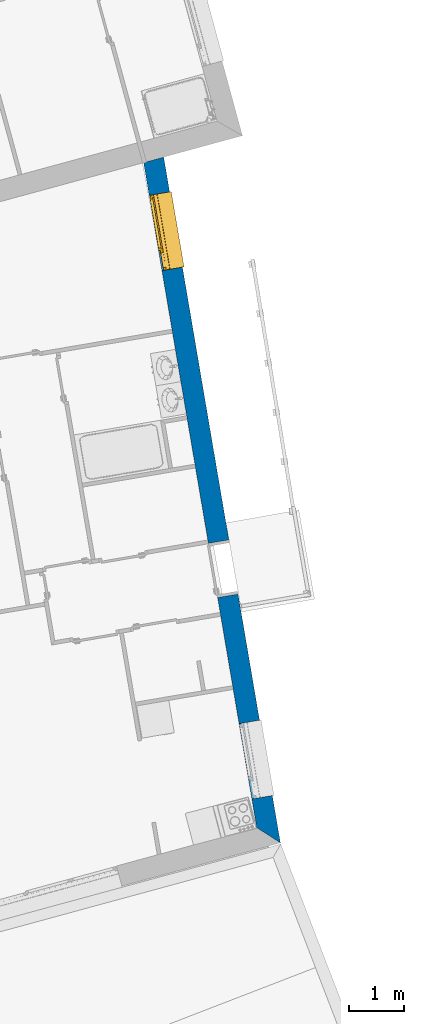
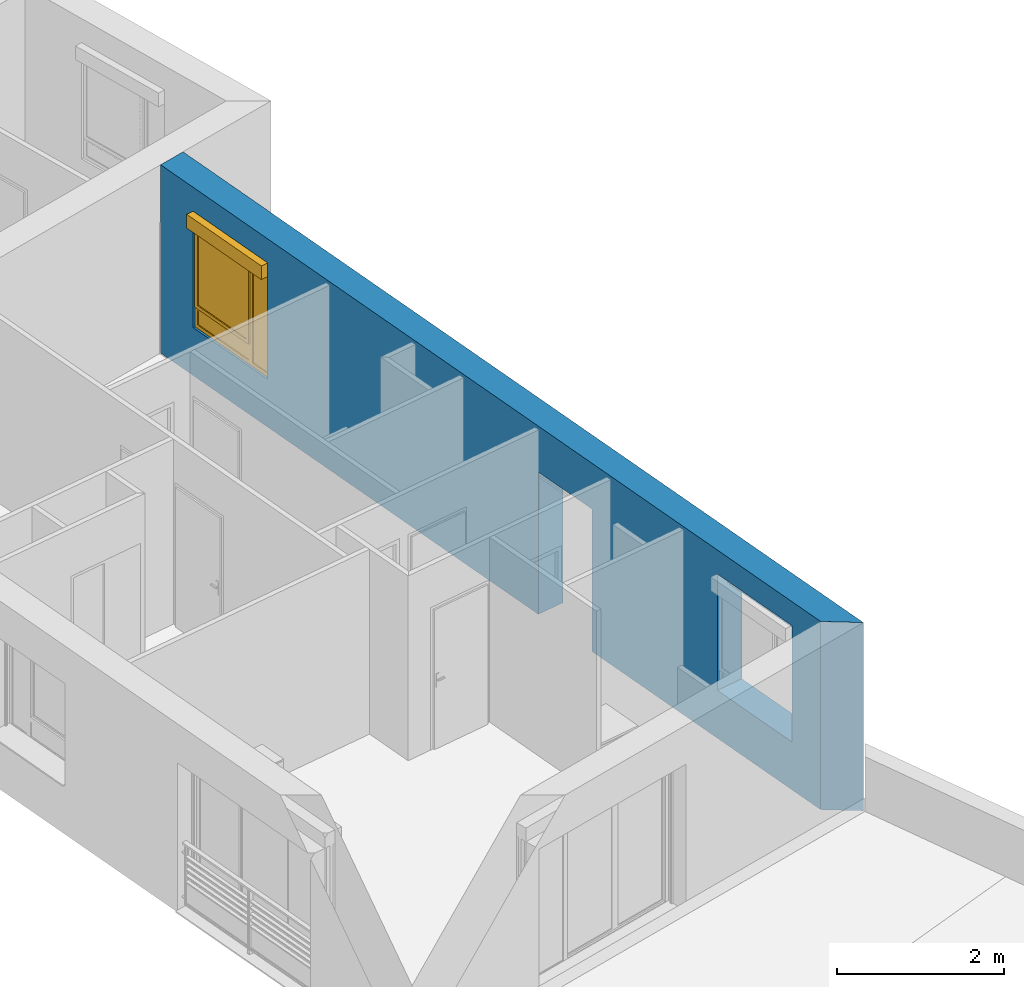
# One storey, part 76 of 121: 1 wall, 1 window, 3 openings.
"""IFC2X3 building model written with IfcOpenShell, lengths in metres."""

from ifc_helpers import new_model, entity, si_unit, converted_unit, derived_unit, money_unit, direction, frame, origin_with_axes, origin_2d_with_axis, place, context, subcontext, project, spatial, polyline, rectangle, outline, extrude, open_shell, faceted_brep, surface_model, source, transform, mapped, material, layer, layer_set, layer_usage, type_object, element, fill, save


model = new_model("IFC2X3")

# Units and contexts
model_context = context("Model", 3, precision=1e-05, world=origin_with_axes(), true_north=direction((0.0, 1.0)))
body_context = subcontext(model_context, "Body", "Model", "MODEL_VIEW")
ifc_project = project(units=[si_unit("LENGTHUNIT", "METRE"), si_unit("AREAUNIT", "SQUARE_METRE"), si_unit("VOLUMEUNIT", "CUBIC_METRE"), converted_unit("PLANEANGLEUNIT", "DEGREE", entity("IfcPlaneAngleMeasure", 0.0174532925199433), si_unit("PLANEANGLEUNIT", "RADIAN"), dimensions=[0, 0, 0, 0, 0, 0, 0]), money_unit("CHF"), converted_unit("TIMEUNIT", "Year", entity("IfcTimeMeasure", 31557600.0), si_unit("TIMEUNIT", "SECOND"), dimensions=[0, 0, 1, 0, 0, 0, 0]), si_unit("MASSUNIT", "GRAM", prefix="KILO"), si_unit("THERMODYNAMICTEMPERATUREUNIT", "DEGREE_CELSIUS"), si_unit("LUMINOUSINTENSITYUNIT", "LUMEN"), si_unit("ENERGYUNIT", "JOULE", prefix="MEGA"), derived_unit("THERMALCONDUCTANCEUNIT", [(si_unit("POWERUNIT", "WATT"), 1), (si_unit("LENGTHUNIT", "METRE"), -1), (si_unit("THERMODYNAMICTEMPERATUREUNIT", "KELVIN"), -1)]), derived_unit("SPECIFICHEATCAPACITYUNIT", [(si_unit("ENERGYUNIT", "JOULE"), 1), (si_unit("MASSUNIT", "GRAM", prefix="KILO"), -1), (si_unit("THERMODYNAMICTEMPERATUREUNIT", "KELVIN"), -1)]), derived_unit("MASSDENSITYUNIT", [(si_unit("MASSUNIT", "GRAM", prefix="KILO"), 1), (si_unit("VOLUMEUNIT", "CUBIC_METRE"), -1)])], contexts=[model_context])

# Site, building, storey
site_placement = place(None, origin_with_axes())
site = spatial("IfcSite", under=ifc_project, at=site_placement, Name="Site", CompositionType="ELEMENT")
building_placement = place(site_placement, origin_with_axes())
building = spatial("IfcBuilding", under=site, at=building_placement, Name="Bâtiment", CompositionType="ELEMENT")
storey_placement = place(building_placement, frame((0.0, 0.0, 2.75), z_axis=(0.0, 0.0, 1.0), x_axis=(1.0, 0.0, 0.0)))
storey = spatial("IfcBuildingStorey", under=building, at=storey_placement, Name="Etage 1", CompositionType="ELEMENT", Elevation=2.75)

# Wall, openings, window
ifc_material_1 = material(Name="Parpaing 312445824")
ifc_layer_1 = layer(ifc_material_1, 0.22, ventilated="UNKNOWN")
ifc_material_2 = material(Name="Isolant styromousse 301821074")
ifc_layer_2 = layer(ifc_material_2, 0.16, ventilated="UNKNOWN")
ifc_layer_set = layer_set([ifc_layer_1, ifc_layer_2], Name="isol int 22+16 0836643197")
ifc_layer_usage = layer_usage(ifc_layer_set, "AXIS2", "NEGATIVE", 0.0)
wall_type = type_object("IfcWallType", Name="isol int 22+16 0836643197 380", PredefinedType="NOTDEFINED")
wall_placement = place(storey_placement, frame((9587.267838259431, -1021.018009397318, 57.7), z_axis=(0.0, 0.0, 1.0), x_axis=(0.1677527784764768, -0.9858290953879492, 0.0)))
wall = element("IfcWallStandardCase", 1, at=wall_placement, inside=storey, type_object=wall_type, material=ifc_layer_usage, Name="Mur-113", context=body_context, shape_type="SweptSolid", body=[
    extrude(outline(polyline([(0.03709306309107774, -0.3799999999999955), (12.41463836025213, -0.3799999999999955), (12.75935139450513, 0.0), (9.105178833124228e-10, 0.0), (0.03709306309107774, -0.3799999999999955)])), origin_with_axes(), (0.0, 0.0, 1.0), 2.75),
])
opening_1_placement = place(wall_placement, frame((1.346555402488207, 0.0, 0.7000000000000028), z_axis=(0.0, 0.0, 1.0), x_axis=(1.0, 0.0, 0.0)))
opening_1 = element("IfcOpeningElement", 2, at=opening_1_placement, cuts=wall, Name="Fen-045", context=body_context, shape_type="Brep", body=[
    faceted_brep([(-0.700000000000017, -0.2200000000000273, 1.5), (0.700000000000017, -0.2199999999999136, 1.5), (0.700000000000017, 2.111085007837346, 1.5), (-0.700000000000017, 2.111085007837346, 1.5), (-0.700000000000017, -0.2200000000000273, 1.700000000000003), (0.700000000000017, -0.2199999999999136, 1.700000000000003), (0.700000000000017, -0.2999999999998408, 1.5), (0.700000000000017, -0.2999999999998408, 0.0), (0.700000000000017, 2.111085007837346, 0.0), (-0.700000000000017, 2.111085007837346, 0.0), (-0.6999999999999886, -0.2999999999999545, 1.5), (-0.6999999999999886, -0.2999999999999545, 0.0), (-0.6999999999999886, -0.4799999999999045, 1.5), (-0.6999999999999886, -0.4799999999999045, 1.700000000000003), (0.700000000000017, -0.4799999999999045, 1.700000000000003), (0.700000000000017, -0.4799999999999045, 1.5), (0.700000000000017, -2.491085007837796, 1.5), (0.700000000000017, -2.491085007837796, 0.0), (-0.6999999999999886, -2.491085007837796, 0.0), (-0.6999999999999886, -2.491085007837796, 1.5)], [[[0, 1, 2, 3]], [[1, 0, 4, 5]], [[1, 6, 7, 8, 2]], [[2, 8, 9, 3]], [[10, 0, 3, 9, 11]], [[0, 10, 12, 13, 4]], [[14, 5, 4, 13]], [[6, 1, 5, 14, 15]], [[6, 15, 16, 17, 7]], [[7, 11, 9, 8]], [[12, 10, 11, 18, 19]], [[12, 15, 14, 13]], [[15, 12, 19, 16]], [[19, 18, 17, 16]], [[11, 7, 17, 18]]]),
])
opening_2_placement = place(wall_placement, frame((7.626217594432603, 0.0, 0.0), z_axis=(0.0, 0.0, 1.0), x_axis=(1.0, 0.0, 0.0)))
element("IfcOpeningElement", 3, at=opening_2_placement, cuts=wall, Name="Por-294", context=body_context, shape_type="SweptSolid", body=[
    extrude(rectangle(XDim=1.01000001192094, YDim=2.079999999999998, at=origin_2d_with_axis()), frame((-5.960401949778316e-09, 0.3799999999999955, 1.039999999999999), z_axis=(0.0, -1.0, 0.0), x_axis=(-1.0, 0.0, 0.0)), (0.0, 0.0, 1.0), 0.76),
])
opening_3_placement = place(wall_placement, frame((11.17804092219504, 0.0, 0.7000000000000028), z_axis=(0.0, 0.0, 1.0), x_axis=(1.0, 0.0, 0.0)))
element("IfcOpeningElement", 4, at=opening_3_placement, cuts=wall, Name="Fen-045", context=body_context, shape_type="Brep", body=[
    faceted_brep([(-0.6999999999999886, -0.2200000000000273, 1.5), (0.6999999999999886, -0.2200000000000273, 1.5), (0.6999999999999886, 2.111085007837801, 1.5), (-0.6999999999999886, 2.111085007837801, 1.5), (-0.6999999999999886, -0.2200000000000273, 1.700000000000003), (0.6999999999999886, -0.2200000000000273, 1.700000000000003), (0.6999999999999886, -0.2999999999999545, 1.5), (0.6999999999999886, -0.2999999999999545, 0.0), (0.6999999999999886, 2.111085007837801, 0.0), (-0.6999999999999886, 2.111085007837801, 0.0), (-0.6999999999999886, -0.2999999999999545, 1.5), (-0.6999999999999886, -0.2999999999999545, 0.0), (-0.6999999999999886, -0.4799999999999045, 1.5), (-0.6999999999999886, -0.4799999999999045, 1.700000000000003), (0.6999999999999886, -0.4800000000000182, 1.700000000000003), (0.6999999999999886, -0.4800000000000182, 1.5), (0.700000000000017, -2.491085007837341, 1.5), (0.700000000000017, -2.491085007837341, 0.0), (-0.700000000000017, -2.491085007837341, 0.0), (-0.700000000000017, -2.491085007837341, 1.5)], [[[0, 1, 2, 3]], [[1, 0, 4, 5]], [[1, 6, 7, 8, 2]], [[2, 8, 9, 3]], [[10, 0, 3, 9, 11]], [[0, 10, 12, 13, 4]], [[14, 5, 4, 13]], [[6, 1, 5, 14, 15]], [[6, 15, 16, 17, 7]], [[7, 11, 9, 8]], [[12, 10, 11, 18, 19]], [[12, 15, 14, 13]], [[15, 12, 19, 16]], [[19, 18, 17, 16]], [[11, 7, 17, 18]]]),
])
window_style = type_object("IfcWindowStyle", Name="Fenêtre variable 27", ConstructionType="NOTDEFINED", OperationType="TRIPLE_PANEL_LEFT", ParameterTakesPrecedence=False, Sizeable=False)
shared_shape = source(origin_with_axes(), body_context, "Body", "SurfaceModel", [
    surface_model("IfcShellBasedSurfaceModel", [(0.7, -0.05100000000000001, 0.05), (-0.7, -0.05100000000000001, 0.05000000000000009), (-0.7, -0.05100000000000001, 0.04000000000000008), (0.7, -0.05100000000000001, 0.04), (-0.7, -0.3799999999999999, 0.02900000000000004), (0.7, -0.3799999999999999, 0.02899999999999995), (-0.7, -0.3799999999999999, 0.00900000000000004), (0.7, -0.3799999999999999, 0.008999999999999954), (-0.7, -0.3699999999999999, 0.01900000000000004), (0.7, -0.3699999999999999, 0.01899999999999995)], [open_shell([[[0, 1, 2, 3]], [[3, 2, 4, 5]], [[5, 4, 6, 7]], [[7, 6, 8, 9]]])]),
    faceted_brep([(0.7, -0.13, 1.7), (0.7, 0.13, 1.7), (0.697, 0.13, 1.7), (0.697, -0.13, 1.7), (0.7, -0.13, 1.5), (0.7, 0.13, 1.5), (0.697, 0.13, 1.5), (0.697, -0.13, 1.5)], [[[0, 1, 2, 3]], [[0, 4, 5, 1]], [[1, 5, 6, 2]], [[3, 2, 6, 7]], [[4, 0, 3, 7]], [[5, 4, 7, 6]]]),
    faceted_brep([(-0.6970000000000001, -0.1299999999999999, 1.7), (-0.6970000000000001, 0.1300000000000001, 1.7), (-0.7000000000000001, 0.1300000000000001, 1.7), (-0.7000000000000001, -0.1299999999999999, 1.7), (-0.6970000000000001, -0.1299999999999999, 1.5), (-0.6970000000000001, 0.1300000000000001, 1.5), (-0.7000000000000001, 0.1300000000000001, 1.5), (-0.7000000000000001, -0.1299999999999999, 1.5)], [[[0, 1, 2, 3]], [[0, 4, 5, 1]], [[1, 5, 6, 2]], [[3, 2, 6, 7]], [[4, 0, 3, 7]], [[5, 4, 7, 6]]]),
    faceted_brep([(0.697, -0.13, 1.5), (0.697, -0.13, 1.7), (-0.697, -0.1299999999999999, 1.7), (-0.697, -0.1299999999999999, 1.5), (0.697, -0.127, 1.5), (0.697, -0.127, 1.697), (0.697, 0.127, 1.697), (0.697, 0.127, 1.503), (0.697, -0.108, 1.503), (0.697, -0.108, 1.5), (0.697, 0.13, 1.5), (0.697, 0.13, 1.7), (-0.697, 0.1300000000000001, 1.7), (-0.697, 0.1300000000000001, 1.5), (-0.697, -0.1079999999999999, 1.5), (-0.697, -0.1079999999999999, 1.503), (-0.697, 0.1270000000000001, 1.503), (-0.697, 0.1270000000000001, 1.697), (-0.697, -0.1269999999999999, 1.697), (-0.697, -0.1269999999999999, 1.5)], [[[0, 1, 2, 3]], [[0, 4, 5, 6, 7, 8, 9, 10, 11, 1]], [[1, 11, 12, 2]], [[3, 2, 12, 13, 14, 15, 16, 17, 18, 19]], [[4, 0, 3, 19]], [[5, 4, 19, 18]], [[6, 5, 18, 17]], [[7, 6, 17, 16]], [[8, 7, 16, 15]], [[9, 8, 15, 14]], [[10, 9, 14, 13]], [[11, 10, 13, 12]]]),
    faceted_brep([(0.694, -0.08075423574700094, 1.585760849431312), (0.694, -0.07705479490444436, 1.571954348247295), (0.694, -0.07101408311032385, 1.559), (0.694, -0.06281564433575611, 1.547291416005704), (0.694, -0.05270858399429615, 1.537184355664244), (0.694, -0.04099999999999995, 1.528985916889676), (0.694, -0.02804565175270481, 1.522945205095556), (0.694, -0.01423915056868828, 1.519245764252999), (0.694, 0.0, 1.518), (0.694, 0.01423915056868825, 1.519245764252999), (0.694, 0.02804565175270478, 1.522945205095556), (0.694, 0.04099999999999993, 1.528985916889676), (0.694, 0.05270858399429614, 1.537184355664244), (0.694, 0.06281564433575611, 1.547291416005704), (0.694, 0.07101408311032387, 1.559), (0.694, 0.07705479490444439, 1.571954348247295), (0.694, 0.08075423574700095, 1.585760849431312), (0.694, 0.0819999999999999, 1.6), (0.694, 0.08075423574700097, 1.614239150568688), (0.694, 0.0770547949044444, 1.628045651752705), (0.694, 0.07101408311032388, 1.641), (0.694, 0.06281564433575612, 1.652708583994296), (0.694, 0.05270858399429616, 1.662815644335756), (0.694, 0.04099999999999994, 1.671014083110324), (0.694, 0.02804565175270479, 1.677054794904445), (0.694, 0.01423915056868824, 1.680754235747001), (0.694, 0.0, 1.682), (0.694, -0.01423915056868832, 1.680754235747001), (0.694, -0.02804565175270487, 1.677054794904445), (0.694, -0.04100000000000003, 1.671014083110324), (0.694, -0.05270858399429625, 1.662815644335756), (0.694, -0.06281564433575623, 1.652708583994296), (0.694, -0.07101408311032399, 1.641), (0.694, -0.07705479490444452, 1.628045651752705), (0.694, -0.0807542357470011, 1.614239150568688), (0.694, -0.08200000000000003, 1.6), (-0.694, -0.08075423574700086, 1.585760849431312), (-0.694, -0.07705479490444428, 1.571954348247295), (-0.694, -0.07101408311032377, 1.559), (-0.694, -0.06281564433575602, 1.547291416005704), (-0.694, -0.05270858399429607, 1.537184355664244), (-0.694, -0.04099999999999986, 1.528985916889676), (-0.694, -0.02804565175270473, 1.522945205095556), (-0.694, -0.0142391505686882, 1.519245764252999), (-0.694, 0.0, 1.518), (-0.694, 0.01423915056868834, 1.519245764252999), (-0.694, 0.02804565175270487, 1.522945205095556), (-0.694, 0.04100000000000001, 1.528985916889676), (-0.694, 0.05270858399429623, 1.537184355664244), (-0.694, 0.06281564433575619, 1.547291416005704), (-0.694, 0.07101408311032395, 1.559), (-0.694, 0.07705479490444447, 1.571954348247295), (-0.694, 0.08075423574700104, 1.585760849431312), (-0.694, 0.08199999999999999, 1.6), (-0.694, 0.08075423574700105, 1.614239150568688), (-0.694, 0.07705479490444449, 1.628045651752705), (-0.694, 0.07101408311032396, 1.641), (-0.694, 0.0628156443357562, 1.652708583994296), (-0.694, 0.05270858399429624, 1.662815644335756), (-0.694, 0.04100000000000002, 1.671014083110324), (-0.694, 0.02804565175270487, 1.677054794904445), (-0.694, 0.01423915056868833, 1.680754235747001), (-0.694, 0.0, 1.682), (-0.694, -0.01423915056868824, 1.680754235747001), (-0.694, -0.02804565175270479, 1.677054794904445), (-0.694, -0.04099999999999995, 1.671014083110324), (-0.694, -0.05270858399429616, 1.662815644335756), (-0.694, -0.06281564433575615, 1.652708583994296), (-0.694, -0.07101408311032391, 1.641), (-0.694, -0.07705479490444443, 1.628045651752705), (-0.694, -0.08075423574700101, 1.614239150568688), (-0.694, -0.08199999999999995, 1.6)], [[[0, 1, 2, 3, 4, 5, 6, 7, 8, 9, 10, 11, 12, 13, 14, 15, 16, 17, 18, 19, 20, 21, 22, 23, 24, 25, 26, 27, 28, 29, 30, 31, 32, 33, 34, 35]], [[1, 0, 36, 37]], [[2, 1, 37, 38]], [[3, 2, 38, 39]], [[4, 3, 39, 40]], [[5, 4, 40, 41]], [[6, 5, 41, 42]], [[7, 6, 42, 43]], [[8, 7, 43, 44]], [[9, 8, 44, 45]], [[10, 9, 45, 46]], [[11, 10, 46, 47]], [[12, 11, 47, 48]], [[13, 12, 48, 49]], [[14, 13, 49, 50]], [[15, 14, 50, 51]], [[16, 15, 51, 52]], [[17, 16, 52, 53]], [[18, 17, 53, 54]], [[19, 18, 54, 55]], [[20, 19, 55, 56]], [[21, 20, 56, 57]], [[22, 21, 57, 58]], [[23, 22, 58, 59]], [[24, 23, 59, 60]], [[25, 24, 60, 61]], [[26, 25, 61, 62]], [[27, 26, 62, 63]], [[28, 27, 63, 64]], [[29, 28, 64, 65]], [[30, 29, 65, 66]], [[31, 30, 66, 67]], [[32, 31, 67, 68]], [[33, 32, 68, 69]], [[34, 33, 69, 70]], [[35, 34, 70, 71]], [[0, 35, 71, 36]], [[36, 71, 70, 69, 68, 67, 66, 65, 64, 63, 62, 61, 60, 59, 58, 57, 56, 55, 54, 53, 52, 51, 50, 49, 48, 47, 46, 45, 44, 43, 42, 41, 40, 39, 38, 37]]]),
    faceted_brep([(-0.7, -0.105, 0.03), (-0.7, -0.13, 0.03), (-0.7, -0.1299999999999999, 1.5), (-0.7, -0.1049999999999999, 1.5), (-0.6749999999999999, -0.105, 0.03), (-0.6749999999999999, -0.108, 0.03), (-0.697, -0.108, 0.03), (-0.697, -0.127, 0.03), (-0.6749999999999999, -0.127, 0.03), (-0.6749999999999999, -0.13, 0.03), (-0.6749999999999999, -0.1299999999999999, 1.5), (-0.6749999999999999, -0.1269999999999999, 1.5), (-0.697, -0.1269999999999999, 1.5), (-0.697, -0.1079999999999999, 1.5), (-0.6749999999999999, -0.1079999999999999, 1.5), (-0.6749999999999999, -0.1049999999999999, 1.5)], [[[0, 1, 2, 3]], [[0, 4, 5, 6, 7, 8, 9, 1]], [[1, 9, 10, 2]], [[3, 2, 10, 11, 12, 13, 14, 15]], [[4, 0, 3, 15]], [[5, 4, 15, 14]], [[6, 5, 14, 13]], [[7, 6, 13, 12]], [[8, 7, 12, 11]], [[9, 8, 11, 10]]]),
    faceted_brep([(0.7, -0.105, 0.03), (0.7, -0.1049999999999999, 1.5), (0.7, -0.1299999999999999, 1.5), (0.7, -0.13, 0.03), (0.6749999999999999, -0.105, 0.03), (0.6749999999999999, -0.1049999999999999, 1.5), (0.6749999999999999, -0.1079999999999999, 1.5), (0.697, -0.1079999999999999, 1.5), (0.697, -0.1269999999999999, 1.5), (0.6749999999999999, -0.1269999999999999, 1.5), (0.6749999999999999, -0.1299999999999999, 1.5), (0.6749999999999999, -0.13, 0.03), (0.6749999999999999, -0.127, 0.03), (0.697, -0.127, 0.03), (0.697, -0.108, 0.03), (0.6749999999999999, -0.108, 0.03)], [[[0, 1, 2, 3]], [[4, 5, 1, 0]], [[1, 5, 6, 7, 8, 9, 10, 2]], [[3, 2, 10, 11]], [[0, 3, 11, 12, 13, 14, 15, 4]], [[15, 6, 5, 4]], [[14, 7, 6, 15]], [[13, 8, 7, 14]], [[12, 9, 8, 13]], [[11, 10, 9, 12]]]),
    surface_model("IfcShellBasedSurfaceModel", [(0.697, -0.115, 1.6), (-0.697, -0.1149999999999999, 1.6), (-0.697, -0.12, 1.6), (0.697, -0.12, 1.6), (0.697, -0.115, 1.6), (0.697, -0.12, 1.6), (-0.697, -0.1199999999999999, 1.6), (-0.697, -0.1149999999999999, 1.6)], [open_shell([[[0, 1, 2, 3]], [[4, 5, 6, 7]]])]),
    faceted_brep([(0.697, -0.115, 1.6), (0.697, -0.1166666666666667, 1.583333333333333), (-0.697, -0.1166666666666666, 1.583333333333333), (-0.697, -0.1149999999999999, 1.6), (0.697, -0.12, 1.6), (0.697, -0.1216666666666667, 1.583333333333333), (0.697, -0.1216666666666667, 1.566666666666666), (0.697, -0.12, 1.55), (0.697, -0.115, 1.55), (0.697, -0.1166666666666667, 1.566666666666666), (-0.697, -0.1166666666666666, 1.566666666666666), (-0.697, -0.1149999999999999, 1.55), (-0.697, -0.1199999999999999, 1.55), (-0.697, -0.1216666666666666, 1.566666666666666), (-0.697, -0.1216666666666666, 1.583333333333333), (-0.697, -0.1199999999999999, 1.6)], [[[0, 1, 2, 3]], [[0, 4, 5, 6, 7, 8, 9, 1]], [[1, 9, 10, 2]], [[3, 2, 10, 11, 12, 13, 14, 15]], [[4, 0, 3, 15]], [[5, 4, 15, 14]], [[6, 5, 14, 13]], [[7, 6, 13, 12]], [[8, 7, 12, 11]], [[9, 8, 11, 10]]]),
    faceted_brep([(0.697, -0.115, 1.55), (0.697, -0.1166666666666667, 1.533333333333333), (-0.697, -0.1166666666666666, 1.533333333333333), (-0.697, -0.1149999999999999, 1.55), (0.697, -0.12, 1.55), (0.697, -0.1216666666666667, 1.533333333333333), (0.697, -0.1216666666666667, 1.516666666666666), (0.697, -0.12, 1.5), (0.697, -0.115, 1.5), (0.697, -0.1166666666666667, 1.516666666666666), (-0.697, -0.1166666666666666, 1.516666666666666), (-0.697, -0.1149999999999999, 1.5), (-0.697, -0.1199999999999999, 1.5), (-0.697, -0.1216666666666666, 1.516666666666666), (-0.697, -0.1216666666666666, 1.533333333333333), (-0.697, -0.1199999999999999, 1.55)], [[[0, 1, 2, 3]], [[0, 4, 5, 6, 7, 8, 9, 1]], [[1, 9, 10, 2]], [[3, 2, 10, 11, 12, 13, 14, 15]], [[4, 0, 3, 15]], [[5, 4, 15, 14]], [[6, 5, 14, 13]], [[7, 6, 13, 12]], [[8, 7, 12, 11]], [[9, 8, 11, 10]]]),
    faceted_brep([(0.6749999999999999, 0.0, 1.45), (0.6749999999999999, -0.02500000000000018, 1.45), (0.6499999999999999, -0.02500000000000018, 1.45), (0.6499999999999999, -0.05000000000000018, 1.45), (0.7, -0.05000000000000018, 1.45), (0.7, 0.0, 1.45), (0.6749999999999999, 0.0, 0.3099999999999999), (0.6749999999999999, -0.02500000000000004, 0.3099999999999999), (0.6499999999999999, -0.02500000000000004, 0.335), (0.6499999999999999, -0.02500000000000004, 0.3099999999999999), (0.6499999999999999, -0.05000000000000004, 0.335), (0.6499999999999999, -0.05000000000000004, 0.265), (0.6499999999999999, -0.05000000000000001, 0.05000000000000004), (0.7, -0.05000000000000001, 0.05000000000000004), (0.7, 0.0, 0.05000000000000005), (0.6499999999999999, 0.0, 0.05000000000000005), (0.6499999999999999, 0.0, 0.265), (0.6499999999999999, 0.0, 0.3099999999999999)], [[[0, 1, 2, 3, 4, 5]], [[1, 0, 6, 7]], [[8, 2, 1, 7, 9]], [[2, 8, 10, 3]], [[10, 11, 12, 13, 4, 3]], [[5, 4, 13, 14]], [[6, 0, 5, 14, 15, 16, 17]], [[6, 17, 9, 7]], [[9, 17, 16, 11, 10, 8]], [[15, 12, 11, 16]], [[14, 13, 12, 15]]]),
    faceted_brep([(-0.3068894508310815, -0.02500000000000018, 1.45), (-0.3318894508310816, -0.02500000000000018, 1.45), (-0.3318894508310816, 0.0, 1.45), (-0.3768894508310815, 0.0, 1.45), (-0.3768894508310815, -0.05000000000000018, 1.45), (-0.3068894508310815, -0.05000000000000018, 1.45), (-0.3068894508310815, -0.02500000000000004, 0.335), (-0.3068894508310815, -0.02500000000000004, 0.3099999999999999), (-0.3318894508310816, -0.02500000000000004, 0.3099999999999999), (-0.3318894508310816, 0.0, 0.3099999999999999), (-0.3068894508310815, 0.0, 0.3099999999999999), (-0.3068894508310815, 0.0, 0.265), (-0.3068894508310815, 0.0, 0.05000000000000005), (-0.3768894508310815, 0.0, 0.05000000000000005), (-0.3768894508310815, -0.05000000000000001, 0.05000000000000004), (-0.3068894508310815, -0.05000000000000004, 0.265), (-0.3068894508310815, -0.05000000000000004, 0.335), (-0.3068894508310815, -0.05000000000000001, 0.05000000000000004)], [[[0, 1, 2, 3, 4, 5]], [[1, 0, 6, 7, 8]], [[9, 2, 1, 8]], [[9, 10, 11, 12, 13, 3, 2]], [[13, 14, 4, 3]], [[15, 16, 5, 4, 14, 17]], [[6, 0, 5, 16]], [[7, 6, 16, 15, 11, 10]], [[10, 9, 8, 7]], [[11, 15, 17, 12]], [[12, 17, 14, 13]]]),
    faceted_brep([(0.6499999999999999, -0.02500000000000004, 0.335), (-0.3068894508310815, -0.02500000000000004, 0.335), (-0.3068894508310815, -0.05000000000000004, 0.335), (0.6499999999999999, -0.05000000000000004, 0.335), (-0.3068894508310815, -0.02500000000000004, 0.3099999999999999), (0.6499999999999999, -0.02500000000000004, 0.3099999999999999), (-0.3068894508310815, 0.0, 0.3099999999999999), (-0.3068894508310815, 0.0, 0.265), (-0.3068894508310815, -0.05000000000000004, 0.265), (0.6499999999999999, -0.05000000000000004, 0.265), (0.6499999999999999, 0.0, 0.265), (0.6499999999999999, 0.0, 0.3099999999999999)], [[[0, 1, 2, 3]], [[4, 1, 0, 5]], [[4, 6, 7, 8, 2, 1]], [[2, 8, 9, 3]], [[5, 0, 3, 9, 10, 11]], [[11, 6, 4, 5]], [[6, 11, 10, 7]], [[10, 9, 8, 7]]]),
    faceted_brep([(0.6749999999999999, 0.0, 1.45), (0.6749999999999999, 0.0, 1.475), (-0.3318894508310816, 0.0, 1.475), (-0.3318894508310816, 0.0, 1.45), (-0.3768894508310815, 0.0, 1.45), (-0.6499999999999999, 0.0, 1.45), (-0.7, 0.0, 1.45), (-0.7, 0.0, 1.5), (0.7, 0.0, 1.5), (0.7, 0.0, 1.45), (0.6749999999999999, -0.02500000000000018, 1.45), (0.6749999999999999, -0.02500000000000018, 1.475), (-0.3318894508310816, -0.02500000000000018, 1.475), (-0.3318894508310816, -0.02500000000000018, 1.45), (-0.3068894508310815, -0.02500000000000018, 1.45), (-0.3068894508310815, -0.05000000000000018, 1.45), (-0.3768894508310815, -0.05000000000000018, 1.45), (-0.6499999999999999, -0.05000000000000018, 1.45), (-0.7, -0.05000000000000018, 1.45), (-0.7, -0.05000000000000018, 1.5), (0.7, -0.05000000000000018, 1.5), (0.7, -0.05000000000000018, 1.45), (0.6499999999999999, -0.05000000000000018, 1.45), (0.6499999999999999, -0.02500000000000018, 1.45)], [[[0, 1, 2, 3, 4, 5, 6, 7, 8, 9]], [[1, 0, 10, 11]], [[2, 1, 11, 12]], [[3, 2, 12, 13]], [[13, 14, 15, 16, 4, 3]], [[4, 16, 17, 5]], [[5, 17, 18, 6]], [[6, 18, 19, 7]], [[7, 19, 20, 8]], [[8, 20, 21, 9]], [[10, 0, 9, 21, 22, 23]], [[14, 13, 12, 11, 10, 23]], [[14, 23, 22, 15]], [[16, 15, 22, 21, 20, 19, 18, 17]]]),
    faceted_brep([(-0.6499999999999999, -0.05000000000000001, 0.05), (-0.7, -0.05000000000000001, 0.05), (-0.7, 0.0, 0.05000000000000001), (-0.6499999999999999, 0.0, 0.05000000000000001), (-0.6499999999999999, -0.05000000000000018, 1.45), (-0.7, -0.05000000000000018, 1.45), (-0.7, 0.0, 1.45), (-0.6499999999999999, 0.0, 1.45)], [[[0, 1, 2, 3]], [[0, 4, 5, 1]], [[1, 5, 6, 2]], [[3, 2, 6, 7]], [[4, 0, 3, 7]], [[5, 4, 7, 6]]]),
    faceted_brep([(0.6499999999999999, -0.05000000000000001, 0.05), (0.7, -0.05000000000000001, 0.05), (0.7, 0.0, 0.05000000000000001), (0.6499999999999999, 0.0, 0.05000000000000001), (-0.3068894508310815, -0.05000000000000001, 0.05), (-0.3768894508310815, -0.05000000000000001, 0.05), (-0.6499999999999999, -0.05000000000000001, 0.05), (-0.7, -0.05000000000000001, 0.05), (-0.7, -0.05, 0.0), (0.7, -0.05, 0.0), (0.7, 0.0, 0.0), (-0.7, 0.0, 0.0), (-0.7, 0.0, 0.05000000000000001), (-0.6499999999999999, 0.0, 0.05000000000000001), (-0.3768894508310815, 0.0, 0.05000000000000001), (-0.3068894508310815, 0.0, 0.05000000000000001)], [[[0, 1, 2, 3]], [[0, 4, 5, 6, 7, 8, 9, 1]], [[1, 9, 10, 2]], [[3, 2, 10, 11, 12, 13, 14, 15]], [[4, 0, 3, 15]], [[5, 4, 15, 14]], [[6, 5, 14, 13]], [[7, 6, 13, 12]], [[8, 7, 12, 11]], [[9, 8, 11, 10]]]),
    faceted_brep([(0.625, -0.02500000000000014, 1.425), (0.6749999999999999, -0.02500000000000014, 1.425), (0.6749999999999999, 0.02499999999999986, 1.425), (0.625, 0.02499999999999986, 1.425), (0.625, -0.02500000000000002, 0.3599999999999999), (0.6749999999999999, -0.02500000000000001, 0.3599999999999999), (0.6749999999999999, 0.02499999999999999, 0.3599999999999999), (0.625, 0.02499999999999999, 0.3599999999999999)], [[[0, 1, 2, 3]], [[0, 4, 5, 1]], [[1, 5, 6, 2]], [[3, 2, 6, 7]], [[4, 0, 3, 7]], [[5, 4, 7, 6]]]),
    faceted_brep([(-0.2818894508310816, -0.02500000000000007, 0.3599999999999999), (-0.3318894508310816, -0.02500000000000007, 0.3599999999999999), (-0.3318894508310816, 0.02499999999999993, 0.3599999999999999), (-0.2818894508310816, 0.02499999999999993, 0.3599999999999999), (-0.2818894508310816, -0.0250000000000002, 1.425), (-0.3318894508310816, -0.0250000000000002, 1.425), (-0.3318894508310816, 0.0249999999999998, 1.425), (-0.2818894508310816, 0.0249999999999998, 1.425)], [[[0, 1, 2, 3]], [[0, 4, 5, 1]], [[1, 5, 6, 2]], [[3, 2, 6, 7]], [[4, 0, 3, 7]], [[5, 4, 7, 6]]]),
    faceted_brep([(-0.3318894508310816, -0.02500000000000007, 0.3099999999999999), (-0.3318894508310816, -0.02500000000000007, 0.3599999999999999), (-0.3318894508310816, 0.02499999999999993, 0.3599999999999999), (-0.3318894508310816, 0.02499999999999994, 0.3099999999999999), (0.6749999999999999, -0.025, 0.3099999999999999), (0.6749999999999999, -0.02500000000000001, 0.3599999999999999), (0.625, -0.02500000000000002, 0.3599999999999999), (-0.2818894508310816, -0.02500000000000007, 0.3599999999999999), (-0.2818894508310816, 0.02499999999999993, 0.3599999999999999), (0.625, 0.02499999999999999, 0.3599999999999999), (0.6749999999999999, 0.02499999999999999, 0.3599999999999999), (0.6749999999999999, 0.02499999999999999, 0.3099999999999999)], [[[0, 1, 2, 3]], [[0, 4, 5, 6, 7, 1]], [[1, 7, 8, 2]], [[3, 2, 8, 9, 10, 11]], [[4, 0, 3, 11]], [[5, 4, 11, 10]], [[6, 5, 10, 9]], [[7, 6, 9, 8]]]),
    faceted_brep([(0.6749999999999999, -0.02500000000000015, 1.475), (0.6749999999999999, -0.02500000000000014, 1.425), (0.6749999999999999, 0.02499999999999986, 1.425), (0.6749999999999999, 0.02499999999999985, 1.475), (-0.3318894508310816, -0.02500000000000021, 1.475), (-0.3318894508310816, -0.0250000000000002, 1.425), (-0.2818894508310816, -0.0250000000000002, 1.425), (0.625, -0.02500000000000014, 1.425), (0.625, 0.02499999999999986, 1.425), (-0.2818894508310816, 0.0249999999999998, 1.425), (-0.3318894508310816, 0.0249999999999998, 1.425), (-0.3318894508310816, 0.02499999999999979, 1.475)], [[[0, 1, 2, 3]], [[0, 4, 5, 6, 7, 1]], [[1, 7, 8, 2]], [[3, 2, 8, 9, 10, 11]], [[4, 0, 3, 11]], [[5, 4, 11, 10]], [[6, 5, 10, 9]], [[7, 6, 9, 8]]]),
    surface_model("IfcShellBasedSurfaceModel", [(0.625, -0.01000000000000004, 0.3599999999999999), (0.625, -0.01000000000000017, 1.425), (-0.2818894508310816, -0.01000000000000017, 1.425), (-0.2818894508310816, -0.01000000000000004, 0.3599999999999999)], [open_shell([[[0, 1, 2, 3]]])]),
    surface_model("IfcShellBasedSurfaceModel", [(0.625, 0.009999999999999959, 0.3599999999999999), (-0.2818894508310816, 0.009999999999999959, 0.3599999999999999), (-0.2818894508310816, 0.00999999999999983, 1.425), (0.625, 0.00999999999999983, 1.425)], [open_shell([[[0, 1, 2, 3]]])]),
    surface_model("IfcShellBasedSurfaceModel", [(-0.3768894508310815, -0.035, 0.05), (-0.3768894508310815, -0.03500000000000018, 1.45), (-0.65, -0.03500000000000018, 1.45), (-0.65, -0.035, 0.05)], [open_shell([[[0, 1, 2, 3]]])]),
    surface_model("IfcShellBasedSurfaceModel", [(-0.3768894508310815, -0.015, 0.05), (-0.65, -0.015, 0.05), (-0.65, -0.01500000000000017, 1.45), (-0.3768894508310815, -0.01500000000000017, 1.45)], [open_shell([[[0, 1, 2, 3]]])]),
    surface_model("IfcShellBasedSurfaceModel", [(0.6499999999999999, -0.035, 0.05), (0.6499999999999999, -0.03500000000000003, 0.265), (-0.3068894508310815, -0.03500000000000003, 0.265), (-0.3068894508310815, -0.035, 0.05)], [open_shell([[[0, 1, 2, 3]]])]),
    surface_model("IfcShellBasedSurfaceModel", [(0.6499999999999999, -0.015, 0.05), (-0.3068894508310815, -0.015, 0.05), (-0.3068894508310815, -0.01500000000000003, 0.265), (0.6499999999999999, -0.01500000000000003, 0.265)], [open_shell([[[0, 1, 2, 3]]])]),
])
window_placement = place(opening_1_placement, frame((0.7000000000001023, 0.0, 0.0), z_axis=(0.0, 0.0, 1.0), x_axis=(-1.0, 0.0, 0.0)))
window = element("IfcWindow", 5, at=window_placement, inside=storey, type_object=window_style, Name="Fen-045", OverallHeight=1.5, OverallWidth=1.4, context=body_context, shape_type="MappedRepresentation", body=[
    mapped(shared_shape, transform((0.6999999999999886, 0.3499999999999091, 0.0))),
])
fill(opening_1, window)

save(model, "model.ifc")
